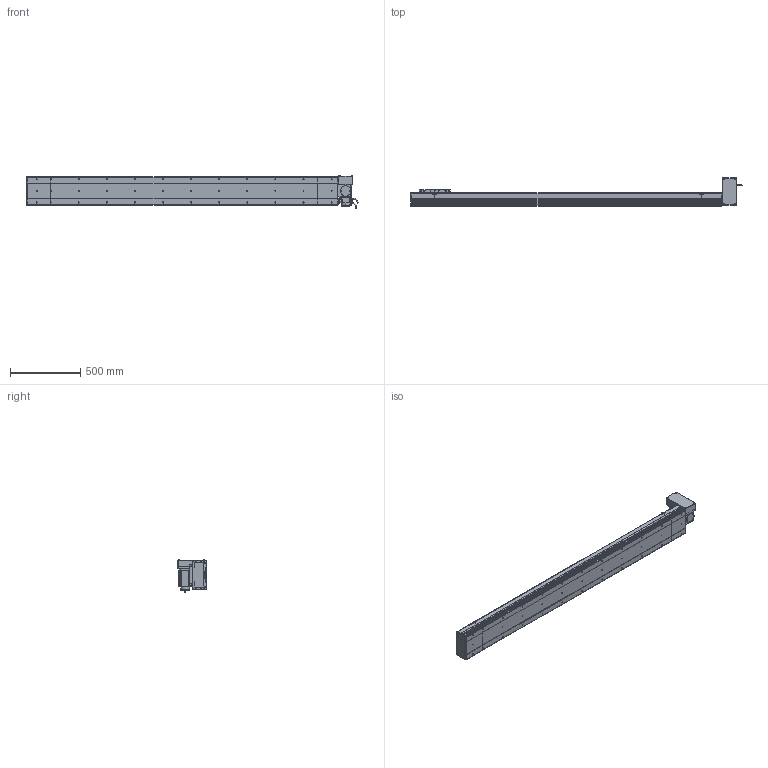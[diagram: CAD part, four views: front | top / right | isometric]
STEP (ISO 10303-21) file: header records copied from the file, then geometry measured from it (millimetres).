
FILE_DESCRIPTION (( 'STEP AP214' ), '1' );
FILE_NAME ('D20 CBH LT S1900.STEP', '2010-06-30T09:50:39', ( 'Conseil Régional Haute-Normandie' ), ( 'Conseil Régional Haute-Normandie' ), 'SwSTEP 2.0', 'SolidWorks 2010', '' );
FILE_SCHEMA (( 'AUTOMOTIVE_DESIGN' ));
Length unit declared in the file: millimetre
Products named in the file (31): Plaque De Serrage D20_Default; vis M5 L15_Default; Support moteur LT_Default; Corp Tail D20+100_Default; Chariot D20_Default; Glissiere_Default; vis M5 L47_Default; corps 90BLDC125A-640; Cache Support Moteur LT_Default; codeur 90BLDC125-640; Conecteur_Default; ecrou_Default; Conecteur2_Default; Corp D20 S1900_Default; Moteur motionking 90BLDC125A-640; Corp S1900_Default; Couvercle S1900_Default; Support Chariot D20_Default; Plaque de Bout Tail D20_Default; vis M5 L30_Default; Head LT_Default; D20 CBH LT S1900; Couvercle LT_Default; Corp Tail D20 LT_Default; Plaque de Bout Head D20 LT_Default; Tail D20+100_Default; Plaque De Serrage D20 LT_Default; Couvercle_Default; avant 90BLDC125A-640; Rondelle Cache D20 LT_Default
Assembly tree (66 placements, depth 4):
  D20 CBH LT S1900
    Head LT_Default
      vis M5 L15_Default  x12
      vis M5 L30_Default  x4
      Rondelle Cache D20 LT_Default  x3
      ecrou_Default  x4
      vis M5 L47_Default  x4
      Support moteur LT_Default
      Plaque de Bout Head D20 LT_Default
      Plaque De Serrage D20 LT_Default
      Moteur motionking 90BLDC125A-640
        Conecteur_Default
        avant 90BLDC125A-640
        Conecteur2_Default
        corps 90BLDC125A-640
        codeur 90BLDC125-640
      Couvercle LT_Default
      Corp Tail D20 LT_Default
      Cache Support Moteur LT_Default
    Tail D20+100_Default
      Corp Tail D20+100_Default
      Plaque De Serrage D20_Default
      vis M5 L15_Default  x6
      Couvercle_Default
      Plaque de Bout Tail D20_Default
    Corp D20 S1900_Default
      Couvercle S1900_Default
      Corp S1900_Default
    Chariot D20_Default
      vis M5 L15_Default  x8
      Support Chariot D20_Default
      Chariot D20_Default
      Glissiere_Default
Bounding box: 2363.45 x 202.5 x 229.7 mm (x, y, z)
Volume: 16214969.2 mm3; surface area: 3191224.1 mm2
Topology: 103 solids, 103 shells, 3786 faces, 9494 edges, 6172 vertices
Faces by surface type: plane 2101, bspline 806, cylinder 716, torus 91, cone 68, sphere 4
Entity records: 161038 total; most frequent: CARTESIAN_POINT 83296, ORIENTED_EDGE 15456, DIRECTION 11688, EDGE_CURVE 7728, VERTEX_POINT 5116, VECTOR 4964, LINE 4964, AXIS2_PLACEMENT_3D 3362
